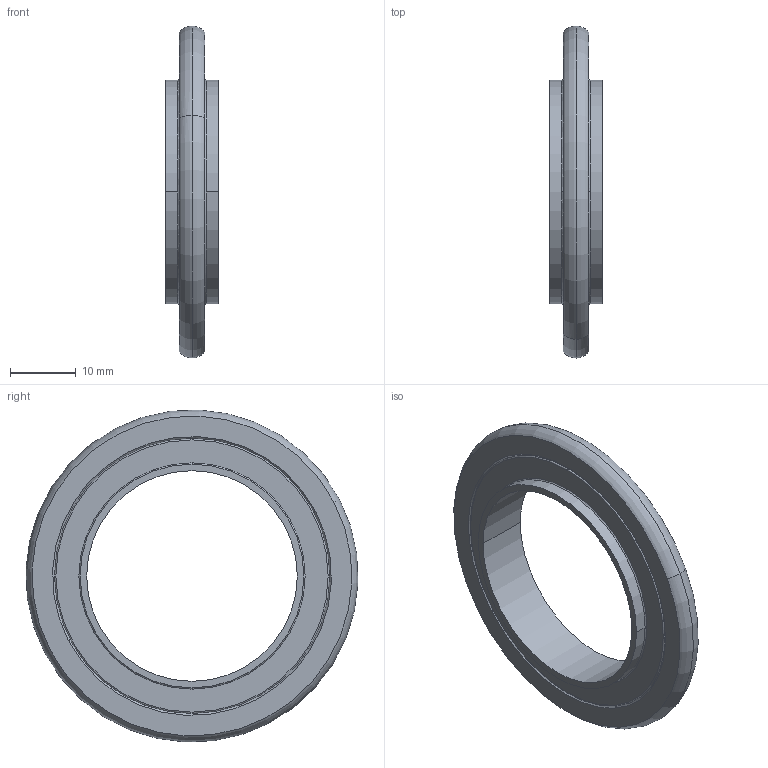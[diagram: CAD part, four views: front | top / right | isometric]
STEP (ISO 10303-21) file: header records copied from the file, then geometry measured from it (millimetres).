
FILE_DESCRIPTION((''),'2;1');
FILE_NAME('W:\211-055.stp','2003-10-08T11:22:12',('KAA'),(''),'Autodesk Inventor (R) 6.0','Autodesk Inventor (R) 6.0','');
FILE_SCHEMA(('CONFIG_CONTROL_DESIGN'));
Length unit declared in the file: millimetre
Products named in the file (1): 211-055
Bounding box: 8 x 50.45 x 50.45 mm (x, y, z)
Volume: 4915.6 mm3; surface area: 4145.6 mm2
Topology: 1 solids, 1 shells, 32 faces, 82 edges, 56 vertices
Faces by surface type: torus 16, cylinder 6, plane 6, bspline 4
Entity records: 1293 total; most frequent: CARTESIAN_POINT 347, DIRECTION 216, ORIENTED_EDGE 164, AXIS2_PLACEMENT_3D 105, EDGE_CURVE 82, CIRCLE 76, VERTEX_POINT 56, EDGE_LOOP 38
